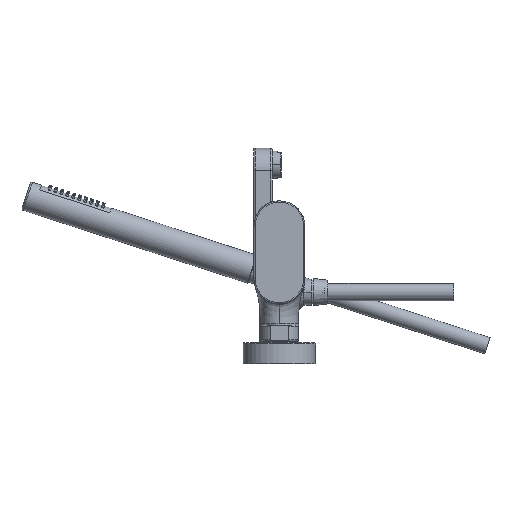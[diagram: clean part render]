
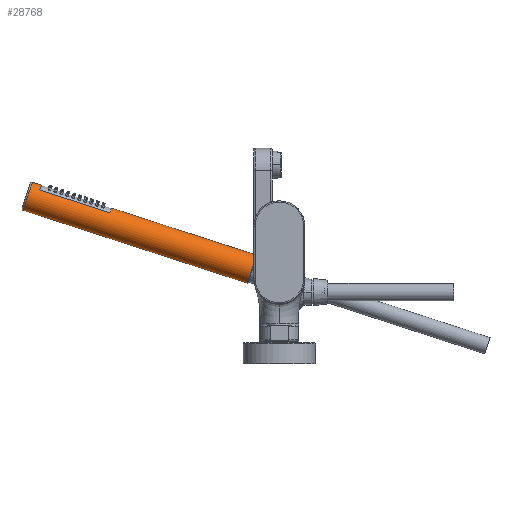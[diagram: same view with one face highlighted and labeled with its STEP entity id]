
A CAD part, left-side view. The second image highlights one B-rep face of the part: STEP entity #28768.
In plain terms, the highlighted cylindrical face has radius 13 mm (diameter 26 mm), a partial arc.
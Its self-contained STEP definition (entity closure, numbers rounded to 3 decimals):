
#22025=CARTESIAN_POINT('',(173.25,213.988,69.879));
#22026=DIRECTION('',(0.,-0.951,-0.309));
#22027=DIRECTION('',(0.,-0.309,0.951));
#22028=AXIS2_PLACEMENT_3D('',#22025,#22026,#22027);
#22030=DIRECTION('',(0.,-0.951,-0.309));
#22031=VECTOR('',#22030,65.);
#22032=CARTESIAN_POINT('',(163.615,211.291,78.179));
#22033=LINE('',#22032,#22031);
#22034=CARTESIAN_POINT('',(173.25,152.169,49.793));
#22035=DIRECTION('',(0.,-0.951,-0.309));
#22036=DIRECTION('',(0.,-0.309,0.951));
#22037=AXIS2_PLACEMENT_3D('',#22034,#22035,#22036);
#22039=DIRECTION('',(0.,0.951,0.309));
#22040=VECTOR('',#22039,134.5);
#22041=CARTESIAN_POINT('',(173.25,20.235,20.594));
#22042=LINE('',#22041,#22040);
#22043=CARTESIAN_POINT('',(173.25,24.252,8.23));
#22044=DIRECTION('',(0.,0.951,0.309));
#22045=DIRECTION('',(0.,0.309,-0.951));
#22046=AXIS2_PLACEMENT_3D('',#22043,#22044,#22045);
#22048=DIRECTION('',(0.,0.951,0.309));
#22049=VECTOR('',#22048,208.);
#22050=CARTESIAN_POINT('',(173.25,28.269,
-4.134));
#22051=LINE('',#22050,#22049);
#22052=CARTESIAN_POINT('',(173.25,222.072,72.505));
#22053=DIRECTION('',(0.,0.951,0.309));
#22054=DIRECTION('',(0.,0.309,-0.951));
#22055=AXIS2_PLACEMENT_3D('',#22052,#22053,#22054);
#22057=DIRECTION('',(0.,0.951,0.309));
#22058=VECTOR('',#22057,8.5);
#22059=CARTESIAN_POINT('',(173.25,209.97,82.243));
#22060=LINE('',#22059,#22058);
#28219=CARTESIAN_POINT('',(173.25,226.089,60.142));
#28220=CARTESIAN_POINT('',(173.25,218.054,84.869));
#28221=VERTEX_POINT('',#28219);
#28222=VERTEX_POINT('',#28220);
#28223=CARTESIAN_POINT('',(173.25,20.235,20.594));
#28224=CARTESIAN_POINT('',(173.25,28.269,-4.134));
#28225=VERTEX_POINT('',#28223);
#28226=VERTEX_POINT('',#28224);
#28240=CARTESIAN_POINT('',(173.25,209.97,82.243));
#28242=VERTEX_POINT('',#28240);
#28244=CARTESIAN_POINT('',(173.25,148.152,62.156));
#28246=VERTEX_POINT('',#28244);
#28247=CARTESIAN_POINT('',(163.615,211.291,78.179));
#28248=VERTEX_POINT('',#28247);
#28249=CARTESIAN_POINT('',(163.615,149.472,58.093));
#28250=VERTEX_POINT('',#28249);
#28749=CARTESIAN_POINT('',(173.25,233.96,76.368));
#28750=DIRECTION('',(0.,-0.951,-0.309));
#28751=DIRECTION('',(0.,-0.309,0.951));
#28752=AXIS2_PLACEMENT_3D('',#28749,#28750,#28751);
#28753=CYLINDRICAL_SURFACE('',#28752,13.);
#28754=ORIENTED_EDGE('',*,*,#28721,.T.);
#28756=ORIENTED_EDGE('',*,*,#28755,.T.);
#28758=ORIENTED_EDGE('',*,*,#28757,.F.);
#28759=ORIENTED_EDGE('',*,*,#28740,.F.);
#28761=ORIENTED_EDGE('',*,*,#28760,.F.);
#28762=ORIENTED_EDGE('',*,*,#28736,.T.);
#28764=ORIENTED_EDGE('',*,*,#28763,.T.);
#28765=ORIENTED_EDGE('',*,*,#28732,.F.);
#28766=EDGE_LOOP('',(#28754,#28756,#28758,#28759,#28761,#28762,#28764,#28765));
#28767=FACE_OUTER_BOUND('',#28766,.F.);
#28768=ADVANCED_FACE('',(#28767),#28753,.T.);
#22029=CIRCLE('',#22028,13.);
#22038=CIRCLE('',#22037,13.);
#22047=CIRCLE('',#22046,13.);
#22056=CIRCLE('',#22055,13.);
#28721=EDGE_CURVE('',#28242,#28248,#22029,.T.);
#28732=EDGE_CURVE('',#28242,#28222,#22060,.T.);
#28736=EDGE_CURVE('',#28226,#28221,#22051,.T.);
#28740=EDGE_CURVE('',#28225,#28246,#22042,.T.);
#28755=EDGE_CURVE('',#28248,#28250,#22033,.T.);
#28757=EDGE_CURVE('',#28246,#28250,#22038,.T.);
#28760=EDGE_CURVE('',#28226,#28225,#22047,.T.);
#28763=EDGE_CURVE('',#28221,#28222,#22056,.T.);
